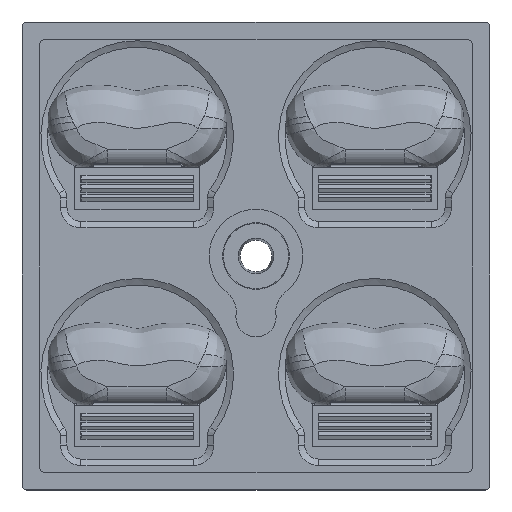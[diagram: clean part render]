
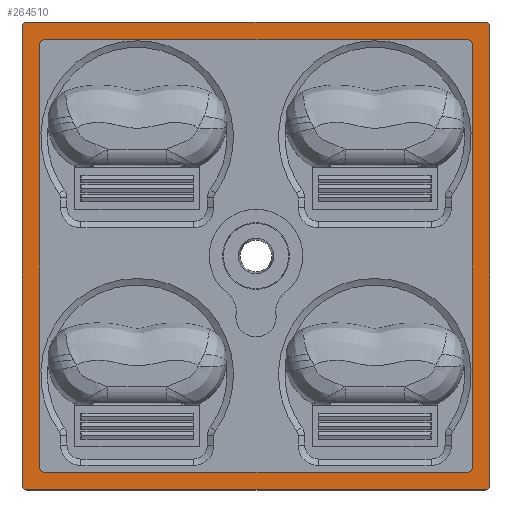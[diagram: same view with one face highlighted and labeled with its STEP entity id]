
A CAD part, top view. The second image highlights one B-rep face of the part: STEP entity #264510.
In plain terms, the highlighted planar face has unit normal (0, 0, 1).
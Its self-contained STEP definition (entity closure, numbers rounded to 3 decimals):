
#39490=CARTESIAN_POINT('',(37.2,11.8,2.9));
#39500=DIRECTION('',(0.,0.,-1.));
#39510=DIRECTION('',(-1.,0.,0.));
#39520=AXIS2_PLACEMENT_3D('',#39490,#39500,#39510);
#39530=CIRCLE('',#39520,0.5);
#39540=CARTESIAN_POINT('',(37.2,12.3,2.9));
#39550=VERTEX_POINT('',#39540);
#39560=CARTESIAN_POINT('',(37.7,11.8,2.9));
#39570=VERTEX_POINT('',#39560);
#39580=EDGE_CURVE('',#39550,#39570,#39530,.T.);
#58840=CARTESIAN_POINT('',(-11.8,-37.7,2.9));
#58850=VERTEX_POINT('',#58840);
#58880=CARTESIAN_POINT('',(0.,-37.7,2.9));
#58890=DIRECTION('',(-1.,-0.,0.));
#58900=VECTOR('',#58890,1.);
#58910=LINE('',#58880,#58900);
#58920=CARTESIAN_POINT('',(37.2,-37.7,2.9));
#58930=VERTEX_POINT('',#58920);
#58940=EDGE_CURVE('',#58930,#58850,#58910,.T.);
#59150=CARTESIAN_POINT('',(37.7,-37.2,2.9));
#59160=VERTEX_POINT('',#59150);
#59190=CARTESIAN_POINT('',(37.7,0.,2.9));
#59200=DIRECTION('',(-0.,-1.,0.));
#59210=VECTOR('',#59200,1.);
#59220=LINE('',#59190,#59210);
#59230=EDGE_CURVE('',#39570,#59160,#59220,.T.);
#59360=CARTESIAN_POINT('',(0.,12.3,2.9));
#59370=DIRECTION('',(-1.,0.,0.));
#59380=VECTOR('',#59370,1.);
#59390=LINE('',#59360,#59380);
#59400=CARTESIAN_POINT('',(-11.8,12.3,2.9));
#59410=VERTEX_POINT('',#59400);
#59420=EDGE_CURVE('',#39550,#59410,#59390,.T.);
#59630=CARTESIAN_POINT('',(-12.3,11.8,2.9));
#59640=VERTEX_POINT('',#59630);
#59670=CARTESIAN_POINT('',(-12.3,0.,2.9));
#59680=DIRECTION('',(-0.,-1.,0.));
#59690=VECTOR('',#59680,1.);
#59700=LINE('',#59670,#59690);
#59710=CARTESIAN_POINT('',(-12.3,-37.2,2.9));
#59720=VERTEX_POINT('',#59710);
#59730=EDGE_CURVE('',#59640,#59720,#59700,.T.);
#59940=CARTESIAN_POINT('',(-9.896,10.396,2.9));
#59950=VERTEX_POINT('',#59940);
#59980=CARTESIAN_POINT('',(0.,10.396,2.9));
#59990=DIRECTION('',(1.,-0.,-0.));
#60000=VECTOR('',#59990,1.);
#60010=LINE('',#59980,#60000);
#60020=CARTESIAN_POINT('',(35.296,10.396,2.9));
#60030=VERTEX_POINT('',#60020);
#60040=EDGE_CURVE('',#59950,#60030,#60010,.T.);
#60250=CARTESIAN_POINT('',(-10.396,-35.296,2.9));
#60260=VERTEX_POINT('',#60250);
#60290=CARTESIAN_POINT('',(-10.396,0.,2.9));
#60300=DIRECTION('',(-0.,1.,-0.));
#60310=VECTOR('',#60300,1.);
#60320=LINE('',#60290,#60310);
#60330=CARTESIAN_POINT('',(-10.396,9.896,2.9));
#60340=VERTEX_POINT('',#60330);
#60350=EDGE_CURVE('',#60260,#60340,#60320,.T.);
#60510=CARTESIAN_POINT('',(0.,-35.796,2.9));
#60520=DIRECTION('',(-1.,0.,0.));
#60530=VECTOR('',#60520,1.);
#60540=LINE('',#60510,#60530);
#60550=CARTESIAN_POINT('',(35.296,-35.796,2.9));
#60560=VERTEX_POINT('',#60550);
#60570=CARTESIAN_POINT('',(-9.896,-35.796,2.9));
#60580=VERTEX_POINT('',#60570);
#60590=EDGE_CURVE('',#60560,#60580,#60540,.T.);
#60860=CARTESIAN_POINT('',(35.796,9.896,2.9));
#60870=VERTEX_POINT('',#60860);
#60900=CARTESIAN_POINT('',(35.796,0.,2.9));
#60910=DIRECTION('',(-0.,-1.,0.));
#60920=VECTOR('',#60910,1.);
#60930=LINE('',#60900,#60920);
#60940=CARTESIAN_POINT('',(35.796,-35.296,2.9));
#60950=VERTEX_POINT('',#60940);
#60960=EDGE_CURVE('',#60870,#60950,#60930,.T.);
#74560=CARTESIAN_POINT('',(37.2,-37.2,2.9));
#74570=DIRECTION('',(0.,0.,1.));
#74580=DIRECTION('',(1.,0.,-0.));
#74590=AXIS2_PLACEMENT_3D('',#74560,#74570,#74580);
#74600=CIRCLE('',#74590,0.5);
#74610=EDGE_CURVE('',#58930,#59160,#74600,.T.);
#75200=CARTESIAN_POINT('',(-11.8,-37.2,2.9));
#75210=DIRECTION('',(0.,0.,-1.));
#75220=DIRECTION('',(-1.,0.,0.));
#75230=AXIS2_PLACEMENT_3D('',#75200,#75210,#75220);
#75240=CIRCLE('',#75230,0.5);
#75250=EDGE_CURVE('',#58850,#59720,#75240,.T.);
#75380=CARTESIAN_POINT('',(35.296,9.896,2.9));
#75390=DIRECTION('',(-0.,0.,-1.));
#75400=DIRECTION('',(-1.,0.,0.));
#75410=AXIS2_PLACEMENT_3D('',#75380,#75390,#75400);
#75420=CIRCLE('',#75410,0.5);
#75430=EDGE_CURVE('',#60030,#60870,#75420,.T.);
#75580=CARTESIAN_POINT('',(35.296,-35.296,2.9));
#75590=DIRECTION('',(0.,0.,1.));
#75600=DIRECTION('',(1.,0.,-0.));
#75610=AXIS2_PLACEMENT_3D('',#75580,#75590,#75600);
#75620=CIRCLE('',#75610,0.5);
#75630=EDGE_CURVE('',#60560,#60950,#75620,.T.);
#75740=CARTESIAN_POINT('',(-9.896,9.896,2.9));
#75750=DIRECTION('',(0.,0.,-1.));
#75760=DIRECTION('',(-1.,0.,0.));
#75770=AXIS2_PLACEMENT_3D('',#75740,#75750,#75760);
#75780=CIRCLE('',#75770,0.5);
#75790=EDGE_CURVE('',#60340,#59950,#75780,.T.);
#75920=CARTESIAN_POINT('',(-9.896,-35.296,2.9));
#75930=DIRECTION('',(0.,0.,-1.));
#75940=DIRECTION('',(-1.,0.,0.));
#75950=AXIS2_PLACEMENT_3D('',#75920,#75930,#75940);
#75960=CIRCLE('',#75950,0.5);
#75970=EDGE_CURVE('',#60580,#60260,#75960,.T.);
#243490=CARTESIAN_POINT('',(-11.8,11.8,2.9));
#243500=DIRECTION('',(0.,0.,1.));
#243510=DIRECTION('',(1.,0.,-0.));
#243520=AXIS2_PLACEMENT_3D('',#243490,#243500,#243510);
#243530=CIRCLE('',#243520,0.5);
#243540=EDGE_CURVE('',#59410,#59640,#243530,.T.);
#264260=CARTESIAN_POINT('',(0.,0.,2.9));
#264270=DIRECTION('',(0.,0.,1.));
#264280=DIRECTION('',(1.,0.,0.));
#264290=AXIS2_PLACEMENT_3D('',#264260,#264270,#264280);
#264300=PLANE('',#264290);
#264310=ORIENTED_EDGE('',*,*,#75970,.T.);
#264320=ORIENTED_EDGE('',*,*,#60590,.T.);
#264330=ORIENTED_EDGE('',*,*,#75630,.F.);
#264340=ORIENTED_EDGE('',*,*,#60960,.T.);
#264350=ORIENTED_EDGE('',*,*,#75430,.T.);
#264360=ORIENTED_EDGE('',*,*,#60040,.T.);
#264370=ORIENTED_EDGE('',*,*,#75790,.T.);
#264380=ORIENTED_EDGE('',*,*,#60350,.T.);
#264390=EDGE_LOOP('',(#264380,#264370,#264360,#264350,#264340,#264330,
#264320,#264310));
#264400=FACE_BOUND('',#264390,.T.);
#264410=ORIENTED_EDGE('',*,*,#243540,.T.);
#264420=ORIENTED_EDGE('',*,*,#59420,.T.);
#264430=ORIENTED_EDGE('',*,*,#39580,.F.);
#264440=ORIENTED_EDGE('',*,*,#59230,.F.);
#264450=ORIENTED_EDGE('',*,*,#74610,.T.);
#264460=ORIENTED_EDGE('',*,*,#58940,.F.);
#264470=ORIENTED_EDGE('',*,*,#75250,.F.);
#264480=ORIENTED_EDGE('',*,*,#59730,.T.);
#264490=EDGE_LOOP('',(#264480,#264470,#264460,#264450,#264440,#264430,
#264420,#264410));
#264500=FACE_OUTER_BOUND('',#264490,.T.);
#264510=ADVANCED_FACE('',(#264400,#264500),#264300,.T.);
